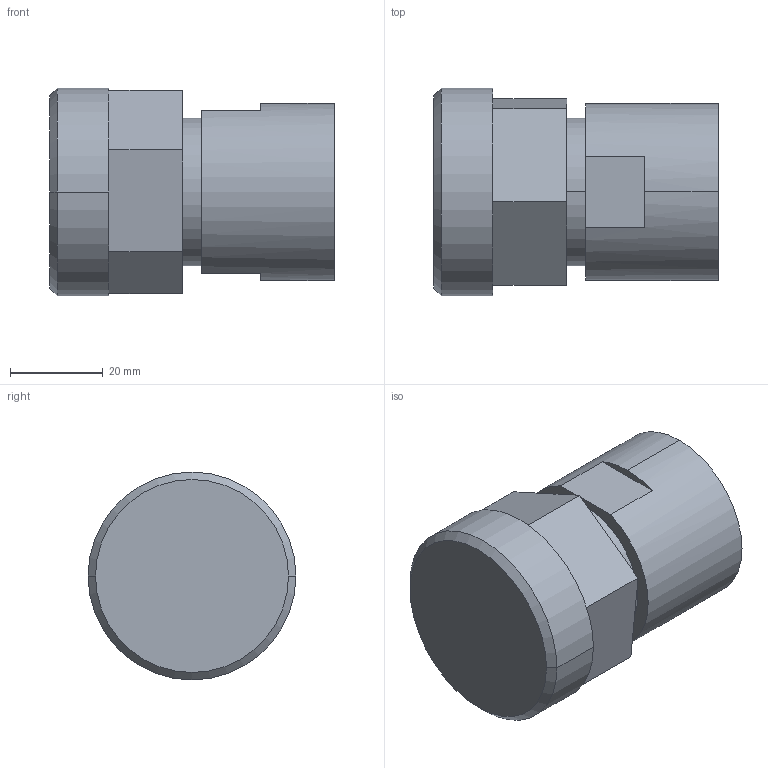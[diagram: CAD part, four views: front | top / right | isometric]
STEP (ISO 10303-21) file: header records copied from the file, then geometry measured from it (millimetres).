
FILE_DESCRIPTION (( 'STEP AP214' ), '1' );
FILE_NAME ('08-fnpt-with-top-mount-adapter.STEP', '2012-11-27T18:47:10', ( '' ), ( '' ), 'SwSTEP 2.0', 'SolidWorks 2012', '' );
FILE_SCHEMA (( 'AUTOMOTIVE_DESIGN' ));
Length unit declared in the file: inch
Products named in the file (1): 08-fnpt-with-top-mount-adapter
Bounding box: 61.21 x 44.7 x 44.7 mm (x, y, z)
Volume: 70310.6 mm3; surface area: 12465.4 mm2
Topology: 1 solids, 1 shells, 26 faces, 58 edges, 38 vertices
Faces by surface type: plane 16, cylinder 8, cone 2
Entity records: 807 total; most frequent: DIRECTION 134, CARTESIAN_POINT 123, ORIENTED_EDGE 116, EDGE_CURVE 58, AXIS2_PLACEMENT_3D 49, VERTEX_POINT 38, VECTOR 36, LINE 36
